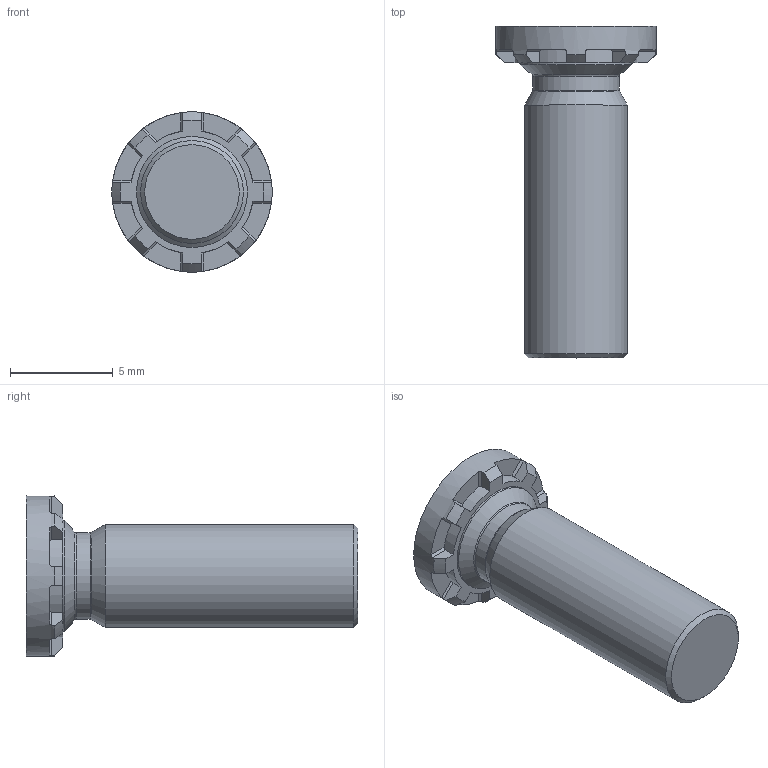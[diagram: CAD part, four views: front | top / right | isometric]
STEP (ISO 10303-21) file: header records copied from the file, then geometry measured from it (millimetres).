
FILE_DESCRIPTION(/* description */ (''),/* implementation_level */ '2;1');
FILE_NAME(/* name */ 'C:\Users\keval.kumar\Desktop\Fastit\Clinch Screw- HFH Range\M5\Clinch Screw-HFH Range_M5x15.stp',/* time_stamp */ '2024-03-12T14:31:16+05:00',/* author */ ('keval.kumar'),/* organization */ (''),/* preprocessor_version */ 'ST-DEVELOPER v18.1',/* originating_system */ 'Autodesk Inventor 2022',/* authorisation */ '');
FILE_SCHEMA (('AUTOMOTIVE_DESIGN { 1 0 10303 214 3 1 1 }'));
Length unit declared in the file: millimetre
Products named in the file (1): M5x15_HFH Range
Bounding box: 7.8 x 16.14 x 7.8 mm (x, y, z)
Volume: 351.2 mm3; surface area: 364.3 mm2
Topology: 1 solids, 1 shells, 68 faces, 193 edges, 128 vertices
Faces by surface type: plane 43, cylinder 12, cone 11, torus 2
Full cylindrical faces by diameter (mm): 4.2 x1, 5 x1, 5.4 x1, 7.8 x1
Entity records: 2278 total; most frequent: CARTESIAN_POINT 422, DIRECTION 405, ORIENTED_EDGE 386, EDGE_CURVE 193, AXIS2_PLACEMENT_3D 159, VERTEX_POINT 128, LINE 87, VECTOR 87
